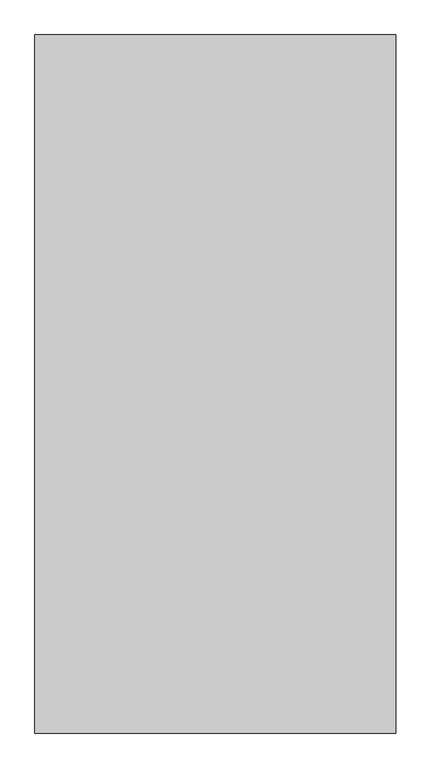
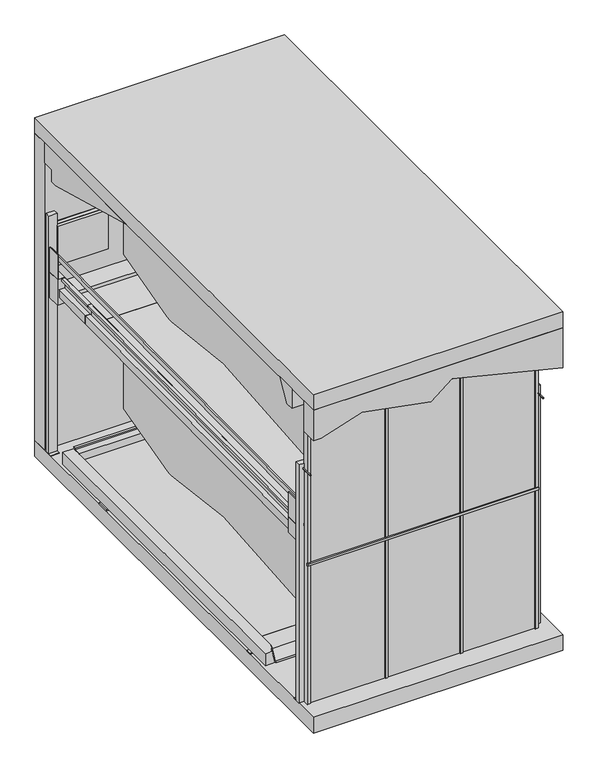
"""IFC4 building model written with IfcOpenShell, lengths in millimetres: proxy geometry, TrendVario 6200+ : TrendVario 6200+."""

from ifc_helpers import new_model, si_unit, point, frame, frame_2d, origin, origin_with_axes, place, context, project, spatial, polyline, circle_curve, trimmed, segment, composite_curve, outline, extrude, faceted_brep, source, transform, mapped, element, save
from ifc_brep_helpers import plane_surface, cylinder_surface, spline_surface, advanced_brep


def generic_models_86916ad0(model_context):
    return source(origin(), model_context, "Body", "SolidModel", [
        extrude(outline(composite_curve([segment(trimmed(circle_curve(frame_2d((2850.0, 5300.0602659)), 6.0), [point((2850.0, 5294.0602659))], [point((2850.0, 5306.0602659))], False, "CARTESIAN"), True, "CONTINUOUS"), segment(trimmed(circle_curve(frame_2d((2850.0, 5300.0602659)), 6.0), [point((2850.0, 5306.0602659))], [point((2850.0, 5294.0602659))], False, "CARTESIAN"), True, "CONTINUOUS")], self_intersect=False)), frame((0.0, 0.0, -150.0), z_axis=(0.0, 0.0, 1.0), x_axis=(1.0, 0.0, 0.0)), (0.0, 0.0, 1.0), 150.0),
        extrude(outline(composite_curve([segment(trimmed(circle_curve(frame_2d((50.0, 5300.0602653)), 6.0), [point((44.0, 5300.0602653))], [point((56.0, 5300.0602653))], False, "CARTESIAN"), True, "CONTINUOUS"), segment(trimmed(circle_curve(frame_2d((50.0, 5300.0602653)), 6.0), [point((56.0, 5300.0602653))], [point((44.0, 5300.0602653))], False, "CARTESIAN"), True, "CONTINUOUS")], self_intersect=False)), frame((0.0, 0.0, -150.0), z_axis=(0.0, 0.0, 1.0), x_axis=(1.0, 0.0, 0.0)), (0.0, 0.0, 1.0), 150.0),
        extrude(outline(composite_curve([segment(trimmed(circle_curve(frame_2d((2850.0, 170.0)), 6.0), [point((2850.0, 164.0))], [point((2850.0, 176.0))], False, "CARTESIAN"), True, "CONTINUOUS"), segment(trimmed(circle_curve(frame_2d((2850.0, 170.0)), 6.0), [point((2850.0, 176.0))], [point((2850.0, 164.0))], False, "CARTESIAN"), True, "CONTINUOUS")], self_intersect=False)), frame((0.0, 0.0, -150.0), z_axis=(0.0, 0.0, 1.0), x_axis=(1.0, 0.0, 0.0)), (0.0, 0.0, 1.0), 150.0),
        extrude(outline(composite_curve([segment(trimmed(circle_curve(frame_2d((50.0, 170.0)), 6.0), [point((44.0, 170.0))], [point((56.0, 170.0))], False, "CARTESIAN"), True, "CONTINUOUS"), segment(trimmed(circle_curve(frame_2d((50.0, 170.0)), 6.0), [point((56.0, 170.0))], [point((44.0, 170.0))], False, "CARTESIAN"), True, "CONTINUOUS")], self_intersect=False)), frame((0.0, 0.0, -150.0), z_axis=(0.0, 0.0, 1.0), x_axis=(1.0, 0.0, 0.0)), (0.0, 0.0, 1.0), 150.0),
        extrude(outline(composite_curve([segment(trimmed(circle_curve(frame_2d((2965.0, 2850.0)), 6.0), [point((2965.0, 2844.0))], [point((2965.0, 2856.0))], False, "CARTESIAN"), True, "CONTINUOUS"), segment(trimmed(circle_curve(frame_2d((2965.0, 2850.0)), 6.0), [point((2965.0, 2856.0))], [point((2965.0, 2844.0))], False, "CARTESIAN"), True, "CONTINUOUS")], self_intersect=False)), frame((0.0, -50.0, 0.0), z_axis=(0.0, 1.0, 0.0), x_axis=(0.0, 0.0, 1.0)), (0.0, 0.0, 1.0), 150.0),
        extrude(outline(composite_curve([segment(trimmed(circle_curve(frame_2d((2965.0, 50.0)), 6.0), [point((2965.0, 44.0))], [point((2965.0, 56.0))], False, "CARTESIAN"), True, "CONTINUOUS"), segment(trimmed(circle_curve(frame_2d((2965.0, 50.0)), 6.0), [point((2965.0, 56.0))], [point((2965.0, 44.0))], False, "CARTESIAN"), True, "CONTINUOUS")], self_intersect=False)), frame((0.0, -50.0, 0.0), z_axis=(0.0, 1.0, 0.0), x_axis=(0.0, 0.0, 1.0)), (0.0, 0.0, 1.0), 150.0),
        extrude(outline(composite_curve([segment(trimmed(circle_curve(frame_2d((2965.0, 50.0)), 6.0), [point((2965.0, 44.0))], [point((2965.0, 56.0))], False, "CARTESIAN"), True, "CONTINUOUS"), segment(trimmed(circle_curve(frame_2d((2965.0, 50.0)), 6.0), [point((2965.0, 56.0))], [point((2965.0, 44.0))], False, "CARTESIAN"), True, "CONTINUOUS")], self_intersect=False)), frame((0.0, 5369.5816653, 0.0), z_axis=(0.0, 1.0, 0.0), x_axis=(0.0, 0.0, 1.0)), (0.0, 0.0, 1.0), 150.0),
        extrude(outline(composite_curve([segment(trimmed(circle_curve(frame_2d((2965.0, 2850.0)), 6.0), [point((2965.0, 2844.0))], [point((2965.0, 2856.0))], False, "CARTESIAN"), True, "CONTINUOUS"), segment(trimmed(circle_curve(frame_2d((2965.0, 2850.0)), 6.0), [point((2965.0, 2856.0))], [point((2965.0, 2844.0))], False, "CARTESIAN"), True, "CONTINUOUS")], self_intersect=False)), frame((0.0, 5369.6045102, 0.0), z_axis=(0.0, 1.0, 0.0), x_axis=(0.0, 0.0, 1.0)), (0.0, 0.0, 1.0), 150.0),
        extrude(outline(polyline([(0.0, -60.0), (0.0, 0.0), (4430.0, 0.0), (4430.0, -60.0), (0.0, -60.0)])), frame((2811.0, 171.9869847, 2038.264563), z_axis=(0.0, -0.008726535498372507, 0.9999619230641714), x_axis=(0.0, 0.9999619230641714, 0.008726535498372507)), (0.0, 0.0, 1.0), 100.0),
        extrude(outline(polyline([(0.0, -19.0), (0.0, 0.0), (4440.0, 0.0), (4440.0, -19.0), (0.0, -19.0)])), frame((2863.0, 167.9116926, 2505.246781), z_axis=(0.0, -0.008726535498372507, 0.9999619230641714), x_axis=(0.0, 0.9999619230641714, 0.008726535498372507)), (0.0, 0.0, 1.0), 56.0),
        faceted_brep([(2800.0, 4599.8286538, 2304.9144337), (2843.0, 4599.8286538, 2304.9144337), (2843.0, 4600.0904499, 2274.915576), (2840.0, 4600.0904499, 2274.915576), (2840.0, 4599.8548334, 2301.9145479), (2803.0, 4599.8548334, 2301.9145479), (2803.0, 4602.6211451, 1984.9266183), (2748.0, 4602.6211451, 1984.9266183), (2748.0, 4602.210998, 2031.9248287), (2711.0, 4602.210998, 2031.9248287), (2711.0, 4602.1848184, 2034.9247145), (2751.0, 4602.1848184, 2034.9247145), (2751.0, 4602.5949655, 1987.9265041), (2800.0, 4602.5949655, 1987.9265041), (2803.0, 102.7924914, 1945.6572086), (2803.0, 100.0261796, 2262.6451382), (2840.0, 100.0261796, 2262.6451382), (2840.0, 100.2617961, 2235.6461663), (2843.0, 100.2617961, 2235.6461663), (2843.0, 100.0, 2265.645024), (2800.0, 100.0, 2265.645024), (2800.0, 102.7924914, 1945.6572086), (2800.0, 202.7886837, 1946.5298621), (2748.0, 202.7886837, 1946.5298621), (2748.0, 202.3785365, 1993.5280725), (2711.0, 202.3785365, 1993.5280725), (2711.0, 202.3523569, 1996.5279583), (2751.0, 202.3523569, 1996.5279583), (2751.0, 202.7625041, 1949.5297479), (2800.0, 202.7625041, 1949.5297479)], [[[0, 1, 2, 3, 4, 5, 6, 7, 8, 9, 10, 11, 12, 13]], [[14, 15, 16, 17, 18, 19, 20, 21]], [[1, 0, 20, 19]], [[2, 1, 19, 18]], [[3, 2, 18, 17]], [[4, 3, 17, 16]], [[5, 4, 16, 15]], [[6, 5, 15, 14]], [[7, 6, 14, 21, 22, 23]], [[8, 7, 23, 24]], [[9, 8, 24, 25]], [[10, 9, 25, 26]], [[11, 10, 26, 27]], [[12, 11, 27, 28]], [[13, 12, 28, 29]], [[0, 13, 29, 22, 21, 20]], [[22, 29, 28, 27, 26, 25, 24, 23]]]),
        extrude(outline(polyline([(2133.867435, 0.0), (2133.867435, -1200.0), (-1962.132565, -1200.0), (-1962.132565, 0.0), (2133.867435, 0.0)])), frame((1600.0, 2468.3986345, 2016.3034445), z_axis=(0.0, -0.008726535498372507, 0.9999619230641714), x_axis=(0.0, 0.9999619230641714, 0.008726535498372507)), (0.0, 0.0, 1.0), 8.0),
        extrude(outline(polyline([(0.0, -1500.0), (0.0, 0.0), (769.9999999, 0.0), (769.9999999, -1500.0), (0.0, -1500.0)])), frame((100.0, 4602.1898877, 2034.9247587), z_axis=(0.0, -0.008726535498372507, 0.9999619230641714), x_axis=(0.0, 0.9999619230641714, 0.008726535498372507)), (0.0, 0.0, 1.0), 8.0),
        extrude(outline(polyline([(5133.7158509, 2091.5652956), (5371.7067886, 2093.642211), (5372.0907561, 2049.6438864), (5369.0908704, 2049.6177068), (5368.7330824, 2090.6161457), (5136.7419163, 2088.5915894), (5137.0997042, 2047.5931506), (5134.0998185, 2047.566971), (5133.7158509, 2091.5652956)])), frame((100.0, 0.0, 0.0), z_axis=(1.0, 0.0, 0.0), x_axis=(0.0, 1.0, 0.0)), (0.0, 0.0, 1.0), 1500.0),
        extrude(outline(polyline([(319.9999999, 0.0), (319.9999999, -43.0), (289.9999999, -43.0), (289.9999999, -40.0), (317.0, -40.0), (317.0, -3.0), (0.0, -3.0), (0.0, 52.0), (46.9999999, 52.0), (46.9999999, 89.0), (49.9999999, 89.0), (49.9999999, 49.0), (2.9999999, 49.0), (2.9999999, 0.0), (319.9999999, 0.0)])), frame((100.0, 4602.6262144, 1984.9266626), z_axis=(0.0, 0.9999619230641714, 0.008726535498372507), x_axis=(0.0, -0.008726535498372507, 0.9999619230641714)), (0.0, 0.0, 1.0), 770.0),
        extrude(outline(polyline([(200.0, 8.0), (200.0, 0.0), (100.0, 0.0), (100.0, 3025.0), (160.0, 3025.0), (160.0, 8.0), (200.0, 8.0)])), frame((0.0, 0.0, 0.0), z_axis=(1.0, 0.0, 0.0), x_axis=(0.0, 1.0, 0.0)), (0.0, 0.0, 1.0), 100.0),
        faceted_brep([(0.0, 5249.9885779, 3650.0), (3000.0, 5249.9885779, 3650.0), (3000.0, 5249.9885779, 3500.0), (0.0, 5249.9885779, 3500.0), (0.0, 5399.9657348, 3650.0), (3000.0, 5399.9657348, 3650.0), (3000.0, 5167.6820669, 3500.0), (3000.0, 3699.9673137, 3900.0057953), (0.0, 3699.9885779, 3900.0), (0.0, 5167.6820669, 3500.0), (3000.0, 5399.9657348, 3900.0), (0.0, 5399.9657348, 3900.0)], [[[0, 1, 2, 3]], [[1, 0, 4, 5]], [[6, 7, 8, 9]], [[10, 7, 6, 2, 1, 5]], [[8, 11, 4, 0, 3, 9]], [[11, 10, 5, 4]], [[7, 10, 11, 8]], [[2, 6, 9, 3]]]),
        extrude(outline(polyline([(3511.8273555, 0.0), (3511.8273555, 90.0080034), (3672.5161926, 584.5573919), (3511.8273555, 1411.229794), (3719.8801857, 1665.5456754), (3387.1633541, 3000.0), (3900.0, 3000.0), (3900.0, 0.0), (3511.8273555, 0.0)])), frame((0.0, -200.0, 0.0), z_axis=(0.0, 1.0, 0.0), x_axis=(0.0, 0.0, 1.0)), (0.0, 0.0, 1.0), 200.0),
        extrude(outline(polyline([(100.0, 45.0), (100.0, 55.0), (2800.0, 55.0), (2800.0, 45.0), (100.0, 45.0)])), origin_with_axes(), (0.0, 0.0, 1.0), 3526.0),
        extrude(outline(polyline([(1932.0, 44.0), (1932.0, 35.0), (1902.0, 35.0), (1902.0, 44.0), (1932.0, 44.0)])), origin_with_axes(), (0.0, 0.0, 1.0), 3526.0),
        extrude(outline(polyline([(1031.0, 44.0), (1031.0, 35.0), (1001.0, 35.0), (1001.0, 44.0), (1031.0, 44.0)])), origin_with_axes(), (0.0, 0.0, 1.0), 3526.0),
        extrude(outline(polyline([(0.0, -19.0), (0.0, 0.0), (5147.1058324, 0.0), (5147.1058324, -19.0), (0.0, -19.0)])), frame((37.0, 5302.7546227, 2550.0578764), z_axis=(0.0, -0.008726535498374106, 0.9999619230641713), x_axis=(0.0, -0.9999619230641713, -0.008726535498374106)), (0.0, 0.0, 1.0), 56.0),
        extrude(outline(polyline([(18.0, 5142.5968952), (7.0, 5142.5968952), (7.0, 5312.5968952), (18.0, 5312.5968952), (18.0, 5142.5968952)])), frame((0.0, 0.0, 2319.0), z_axis=(0.0, 0.0, 1.0), x_axis=(1.0, 0.0, 0.0)), (0.0, 0.0, 1.0), 310.0),
        extrude(outline(polyline([(2882.0, 5142.0602659), (2882.0, 5312.0602659), (2893.0, 5312.0602659), (2893.0, 5142.0602659), (2882.0, 5142.0602659)])), frame((0.0, 0.0, 2319.0), z_axis=(0.0, 0.0, 1.0), x_axis=(1.0, 0.0, 0.0)), (0.0, 0.0, 1.0), 310.0),
        advanced_brep(
        [(2878.3930268, 838.0907234, 21.8284597), (2878.3930268, 838.0907234, 173.2797049), (2800.0, 838.0907234, 173.2797049), (2760.0, 838.0907234, 21.8284597), (2878.3930268, 5057.0907234, 21.8284597), (2750.0, 5057.0907234, 21.8284597), (2750.0, 5057.0907234, 173.2797049), (2878.3930268, 5057.0907234, 173.2797049), (2750.0, 938.0907234, 173.2797049), (2750.0, 848.0907234, 21.8284597)],
        [
            (0, 1),
            (1, 2),
            (2, 3),
            (3, 0),
            (4, 5),
            (5, 6),
            (6, 7),
            (7, 4),
            (0, 4),
            (7, 1),
            (6, 8),
            (8, 2),
            (5, 9),
            (9, 8),
            (3, 9),
        ],
        [
            plane_surface(frame((2750.0, 838.0907234, 0.0), z_axis=(0.0, -1.0, 0.0), x_axis=(0.0, 0.0, 1.0))),
            plane_surface(frame((2750.0, 5057.0907234, 0.0), z_axis=(0.0, 1.0, 0.0), x_axis=(0.0, 0.0, 1.0))),
            plane_surface(frame((2878.3930268, 838.0907234, 21.8284597), z_axis=(1.0, 0.0, 0.0), x_axis=(0.0, 1.0, 0.0))),
            plane_surface(frame((2878.3930268, 838.0907234, 173.2797049), z_axis=(0.0, 0.0, 1.0), x_axis=(0.0, 1.0, 0.0))),
            plane_surface(frame((2750.0, 838.0907234, 173.2797049), z_axis=(-1.0, 0.0, 0.0), x_axis=(0.0, 1.0, 0.0))),
            plane_surface(frame((2750.0, 838.0907234, 21.8284597), z_axis=(0.0, 0.0, -1.0), x_axis=(0.0, 1.0, 0.0))),
            spline_surface(1, 1, [[(2750.0, 938.0907234, 173.2797049), (2800.0, 838.0907234, 173.2797049)], [(2750.0, 848.0907234, 21.8284597), (2760.0, 838.0907234, 21.8284597)]], [2, 2], [2, 2], [0.0, 1.0], [0.0, 1.0]),
        ],
        [
            (0, [[1, 2, 3, 4]]),
            (1, [[5, 6, 7, 8]]),
            (2, [[-1, 9, -8, 10]]),
            (3, [[-7, 11, 12, -2, -10]]),
            (4, [[-6, 13, 14, -11]]),
            (5, [[-5, -9, -4, 15, -13]]),
            (6, [[-3, -12, -14, -15]]),
        ],
    ),
        advanced_brep(
        [(22.4384321, 838.0907234, 173.2797049), (22.4384321, 838.0907234, 20.8412855), (140.0, 838.0907234, 20.8412855), (100.0, 838.0907234, 173.2797049), (150.0, 5057.0907234, 20.8412855), (22.4384321, 5057.0907234, 20.8412855), (22.4384321, 5057.0907234, 173.2797049), (150.0, 5057.0907234, 173.2797049), (150.0, 938.0907234, 173.2797049), (150.0, 848.0907234, 20.8412855)],
        [
            (0, 1),
            (1, 2),
            (2, 3),
            (3, 0),
            (4, 5),
            (5, 6),
            (6, 7),
            (7, 4),
            (7, 8),
            (8, 9),
            (9, 4),
            (6, 0),
            (3, 8),
            (5, 1),
            (9, 2),
        ],
        [
            plane_surface(frame((150.0, 838.0907234, 20.8412855), z_axis=(0.0, -1.0, 0.0), x_axis=(0.0, 0.0, 1.0))),
            plane_surface(frame((150.0, 5057.0907234, 20.8412855), z_axis=(0.0, 1.0, 0.0), x_axis=(0.0, 0.0, -1.0))),
            plane_surface(frame((150.0, 838.0907234, 20.8412855), z_axis=(1.0, 0.0, 0.0), x_axis=(0.0, 1.0, 0.0))),
            plane_surface(frame((150.0, 838.0907234, 173.2797049), z_axis=(0.0, 0.0, 1.0), x_axis=(0.0, 1.0, 0.0))),
            plane_surface(frame((22.4384321, 838.0907234, 173.2797049), z_axis=(-1.0, 0.0, 0.0), x_axis=(0.0, 1.0, 0.0))),
            plane_surface(frame((22.4384321, 838.0907234, 20.8412855), z_axis=(0.0, 0.0, -1.0), x_axis=(0.0, 1.0, 0.0))),
            spline_surface(1, 1, [[(150.0, 848.0907234, 20.8412855), (140.0, 838.0907234, 20.8412855)], [(150.0, 938.0907234, 173.2797049), (100.0, 838.0907234, 173.2797049)]], [2, 2], [2, 2], [0.0, 1.0], [0.0, 1.0]),
        ],
        [
            (0, [[1, 2, 3, 4]]),
            (1, [[5, 6, 7, 8]]),
            (2, [[-8, 9, 10, 11]]),
            (3, [[-7, 12, -4, 13, -9]]),
            (4, [[-1, -12, -6, 14]]),
            (5, [[-5, -11, 15, -2, -14]]),
            (6, [[-3, -15, -10, -13]]),
        ],
    ),
        extrude(outline(polyline([(5369.6045102, 0.0), (5270.0602659, 0.0), (5270.0602659, 8.0), (5310.0602659, 8.0), (5310.0602659, 3025.0), (5369.6045102, 3025.0), (5369.6045102, 0.0)])), frame((2800.0, 0.0, 0.0), z_axis=(1.0, 0.0, 0.0), x_axis=(0.0, 1.0, 0.0)), (0.0, 0.0, 1.0), 100.0),
        extrude(outline(polyline([(5269.5968952, 0.0), (5269.5968952, 8.0), (5309.5968952, 8.0), (5309.5968952, 3025.0), (5369.5968952, 3025.0), (5369.5968952, 0.0), (5269.5968952, 0.0)])), frame((0.0, 0.0, 0.0), z_axis=(1.0, 0.0, 0.0), x_axis=(0.0, 1.0, 0.0)), (0.0, 0.0, 1.0), 100.0),
        advanced_brep(
        [(850.0, 5220.0526533, 335.5997321), (850.0, 4313.3699728, 92.6548401), (850.0, 4224.7221662, 85.0351129), (850.0, 3145.3807126, 219.0), (850.0, 1424.180165, 85.3914386), (850.0, 1340.4923675, 90.5100035), (850.0, 220.4923675, 349.0823776), (850.0, 220.4923675, 1334.0), (850.0, 520.4923675, 1884.0), (850.0, 3620.0831131, 1884.0000002), (850.0, 5220.0526556, 1434.0085664), (2750.0, 220.4923675, 349.0823776), (2750.0, 1340.4923675, 90.5100035), (2750.0, 1424.180165, 85.3914386), (2750.0, 3145.3807126, 219.0), (2750.0, 4224.7221662, 85.0351129), (2750.0, 4313.3699728, 92.6548401), (2750.0, 5220.0526533, 335.5997321), (2750.0, 5220.0526556, 1434.0085664), (2750.0, 3620.0831131, 1884.0000002), (2750.0, 520.4923675, 1884.0), (2750.0, 220.4923675, 1334.0)],
        [
            (0, 1),
            (1, 2, circle_curve(frame((850.0, 4247.6299354, 338.0), z_axis=(-1.0, 0.0, 0.0), x_axis=(0.0, 1.0, 0.0)), 254.0)),
            (2, 3),
            (3, 4),
            (4, 5, circle_curve(frame((850.0, 1397.6299354, 338.0), z_axis=(-1.0, 0.0, 0.0), x_axis=(0.0, 1.0, 0.0)), 254.0)),
            (5, 6),
            (6, 7),
            (7, 8),
            (8, 9),
            (9, 10),
            (10, 0),
            (11, 12),
            (12, 13, circle_curve(frame((2750.0, 1397.6299354, 338.0), z_axis=(1.0, 0.0, 0.0), x_axis=(0.0, 1.0, 0.0)), 254.0)),
            (13, 14),
            (14, 15),
            (15, 16, circle_curve(frame((2750.0, 4247.6299354, 338.0), z_axis=(1.0, 0.0, 0.0), x_axis=(0.0, 1.0, 0.0)), 254.0)),
            (16, 17),
            (17, 18),
            (18, 19),
            (19, 20),
            (20, 21),
            (21, 11),
            (17, 0),
            (10, 18),
            (16, 1),
            (15, 2),
            (14, 3),
            (13, 4),
            (12, 5),
            (11, 6),
            (21, 7),
            (9, 19),
            (8, 20),
        ],
        [
            plane_surface(frame((850.0, 220.4923675, 0.0), z_axis=(-1.0, 0.0, 0.0), x_axis=(0.0, 0.0, 1.0))),
            plane_surface(frame((2750.0, 220.4923675, 0.0), z_axis=(1.0, 0.0, 0.0), x_axis=(0.0, 0.0, 1.0))),
            plane_surface(frame((850.0, 5220.0526533, 1105.8846371), z_axis=(0.0, 1.0, 0.0), x_axis=(1.0, 0.0, 0.0))),
            plane_surface(frame((850.0, 5220.0526533, 335.5997321), z_axis=(0.0, 0.25881904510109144, -0.9659258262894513), x_axis=(1.0, 0.0, 0.0))),
            cylinder_surface(frame((850.0, 4247.6299354, 338.0), z_axis=(-1.0, 0.0, 0.0), x_axis=(0.0, 1.0, 0.0)), 254.0),
            plane_surface(frame((850.0, 4224.7221662, 85.0351129), z_axis=(0.0, -0.12317213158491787, -0.992385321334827), x_axis=(1.0, 0.0, 0.0))),
            plane_surface(frame((850.0, 3145.3807126, 219.0), z_axis=(0.0, 0.07739239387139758, -0.9970007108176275), x_axis=(1.0, 0.0, 0.0))),
            cylinder_surface(frame((850.0, 1397.6299354, 338.0), z_axis=(-1.0, 0.0, 0.0), x_axis=(0.0, 1.0, 0.0)), 254.0),
            plane_surface(frame((850.0, 1340.4923675, 90.5100035), z_axis=(0.0, -0.22495105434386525, -0.9743700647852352), x_axis=(1.0, 0.0, 0.0))),
            plane_surface(frame((850.0, 220.4923675, 349.0823776), z_axis=(0.0, -1.0, 0.0), x_axis=(1.0, 0.0, 0.0))),
            plane_surface(frame((850.0, 3620.0831131, 1884.0000002), z_axis=(0.0, 0.27074557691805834, 0.9626509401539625), x_axis=(1.0, 0.0, 0.0))),
            plane_surface(frame((850.0, 620.4885622, 1884.0000002), z_axis=(0.0, 0.0, 1.0), x_axis=(1.0, 0.0, 0.0))),
            plane_surface(frame((850.0, 220.4923675, 1334.0), z_axis=(0.0, -0.8778955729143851, 0.478852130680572), x_axis=(1.0, 0.0, 0.0))),
        ],
        [
            (0, [[1, 2, 3, 4, 5, 6, 7, 8, 9, 10, 11]]),
            (1, [[12, 13, 14, 15, 16, 17, 18, 19, 20, 21, 22]]),
            (2, [[23, -11, 24, -18]]),
            (3, [[-1, -23, -17, 25]]),
            (4, [[-2, -25, -16, 26]]),
            (5, [[-3, -26, -15, 27]]),
            (6, [[-4, -27, -14, 28]]),
            (7, [[-5, -28, -13, 29]]),
            (8, [[-6, -29, -12, 30]]),
            (9, [[-7, -30, -22, 31]]),
            (10, [[-10, 32, -19, -24]]),
            (11, [[-20, -32, -9, 33]]),
            (12, [[-8, -31, -21, -33]]),
        ],
    ),
        advanced_brep(
        [(850.0080034, 219.0783305, 2530.0), (850.0080034, 212.7549246, 3254.5905482), (850.0080034, 507.9448535, 3807.0791047), (850.0080034, 614.5742843, 3808.0096456), (850.0080034, 616.0660458, 3810.8016825), (850.0080034, 3620.0751529, 3837.0172728), (850.0080034, 5220.0526533, 3400.9650555), (850.0080034, 5220.0602659, 2299.8475577), (850.0080034, 4315.7898833, 2049.0711861), (850.0080034, 4227.211946, 2040.6781608), (850.0080034, 3146.7425411, 2165.2190354), (850.0080034, 1426.7734714, 2016.5954437), (850.0080034, 1343.0441931, 2020.9835093), (850.0080034, 226.8699728, 2268.4333765), (850.0080034, 224.5873155, 2530.0), (2750.0080034, 507.9448535, 3807.0791047), (2750.0080034, 212.7549245, 3254.5905482), (2750.0080034, 219.0783305, 2530.0), (2750.0080034, 224.5873155, 2530.0), (2750.0080034, 226.8699728, 2268.4333765), (2750.0080034, 1343.0441931, 2020.9835093), (2750.0080034, 1426.7734714, 2016.5954437), (2750.0080034, 3146.7425411, 2165.2190354), (2750.0080034, 4227.211946, 2040.6781608), (2750.0080034, 4315.7898833, 2049.0711861), (2750.0080034, 5220.0602659, 2299.8475577), (2750.0080034, 5220.0526533, 3400.9650555), (2750.0080034, 3620.0751529, 3837.0172728), (2750.0080034, 616.0660458, 3810.8016825), (2750.0080034, 614.5742843, 3808.0096456)],
        [
            (0, 1),
            (1, 2),
            (2, 3),
            (3, 4),
            (4, 5),
            (5, 6),
            (6, 7),
            (7, 8),
            (8, 9, circle_curve(frame((850.0080034, 4247.9113358, 2293.8333213), z_axis=(-1.0, 6.846874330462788e-12, 0.0), x_axis=(6.846340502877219e-12, 0.9999619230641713, 0.008726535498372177)), 254.0)),
            (9, 10),
            (10, 11),
            (11, 12, circle_curve(frame((850.0080034, 1398.0198551, 2268.9626951), z_axis=(-1.0, 6.846874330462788e-12, 0.0), x_axis=(6.846340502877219e-12, 0.9999619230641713, 0.008726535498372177)), 254.0)),
            (12, 13),
            (13, 14),
            (14, 0),
            (15, 16),
            (16, 17),
            (17, 18),
            (18, 19),
            (19, 20),
            (20, 21, circle_curve(frame((2750.0080034, 1398.0198551, 2268.9626951), z_axis=(1.0, -6.846874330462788e-12, 0.0), x_axis=(6.846340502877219e-12, 0.9999619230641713, 0.008726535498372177)), 254.0)),
            (21, 22),
            (22, 23),
            (23, 24, circle_curve(frame((2750.0080034, 4247.9113358, 2293.8333213), z_axis=(1.0, -6.846874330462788e-12, 0.0), x_axis=(6.846340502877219e-12, 0.9999619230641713, 0.008726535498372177)), 254.0)),
            (24, 25),
            (25, 26),
            (26, 27),
            (27, 28),
            (28, 29),
            (29, 15),
            (2, 15),
            (29, 3),
            (1, 16),
            (17, 0),
            (14, 18),
            (4, 28),
            (27, 5),
            (26, 6),
            (25, 7),
            (24, 8),
            (23, 9),
            (22, 10),
            (21, 11),
            (20, 12),
            (19, 13),
        ],
        [
            plane_surface(frame((850.0080034, 428.8717402, 3900.0), z_axis=(-1.0, 6.846035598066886e-12, 0.0), x_axis=(0.0, 0.0, 1.0))),
            plane_surface(frame((2750.0080034, 428.8717402, 3900.0), z_axis=(1.0, -6.846035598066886e-12, 0.0), x_axis=(0.0, 0.0, 1.0))),
            plane_surface(frame((850.0080034, 507.9448535, 3807.0791047), z_axis=(0.0, -0.008726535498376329, 0.9999619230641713), x_axis=(1.0, -6.846035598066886e-12, 0.0))),
            plane_surface(frame((850.0080034, 212.7549246, 3254.5905482), z_axis=(-6.038215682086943e-12, -0.8820017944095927, 0.4712460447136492), x_axis=(1.0, -6.846035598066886e-12, 0.0))),
            plane_surface(frame((850.0080034, 4789.9238543, 2530.0), z_axis=(0.0, 0.0, -1.0), x_axis=(1.0, -6.845999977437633e-12, 0.0))),
            plane_surface(frame((850.0080034, 219.0783305, 2530.0), z_axis=(-6.845774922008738e-12, -0.9999619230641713, -0.008726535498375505), x_axis=(1.0, -6.846035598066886e-12, 0.0))),
            plane_surface(frame((850.0080034, 616.0660458, 3810.8016825), z_axis=(0.0, -0.008726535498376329, 0.9999619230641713), x_axis=(1.0, -6.845999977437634e-12, 0.0))),
            plane_surface(frame((850.0080034, 3620.0751529, 3837.0172728), z_axis=(1.8001286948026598e-12, 0.2629460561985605, 0.9648105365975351), x_axis=(1.0, -6.845999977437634e-12, 0.0))),
            plane_surface(frame((850.0080034, 320.8761169, 3258.313126), z_axis=(-6.0382156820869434e-12, -0.8820017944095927, 0.4712460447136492), x_axis=(1.0, -6.846035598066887e-12, 0.0))),
            plane_surface(frame((850.0080034, 5220.0526533, 3400.9650555), z_axis=(6.845999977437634e-12, 1.0, 0.0), x_axis=(1.0, -6.845999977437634e-12, 0.0))),
            plane_surface(frame((2750.0080034, 4315.7898833, 2049.0711861), z_axis=(1.7721223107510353e-12, 0.26723837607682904, -0.963630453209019), x_axis=(-1.0, 6.8459999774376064e-12, 0.0))),
            cylinder_surface(frame((2750.0080034, 4247.9113358, 2293.8333213), z_axis=(1.0, -6.846874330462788e-12, 0.0), x_axis=(6.846340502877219e-12, 0.9999619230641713, 0.008726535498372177)), 254.0),
            plane_surface(frame((2750.0080034, 3146.7425411, 2165.2190354), z_axis=(0.0, -0.11450735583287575, -0.9934224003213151), x_axis=(-1.0, 6.845999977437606e-12, 0.0))),
            plane_surface(frame((2750.0080034, 1426.7734714, 2016.5954437), z_axis=(0.0, 0.08608980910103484, -0.9962873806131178), x_axis=(-1.0, 6.845999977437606e-12, 0.0))),
            cylinder_surface(frame((2750.0080034, 1398.0198551, 2268.9626951), z_axis=(1.0, -6.846874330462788e-12, 0.0), x_axis=(6.846340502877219e-12, 0.9999619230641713, 0.008726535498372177)), 254.0),
            plane_surface(frame((2750.0080034, 226.8699728, 2268.4333765), z_axis=(-1.5398915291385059e-12, -0.21643961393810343, -0.9762960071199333), x_axis=(-1.0, 6.845999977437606e-12, 0.0))),
            plane_surface(frame((2750.0080034, 220.9776342, 2943.6285041), z_axis=(-6.8462590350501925e-12, -0.9999619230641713, -0.00872653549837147), x_axis=(-1.0, 6.845999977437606e-12, 0.0))),
        ],
        [
            (0, [[1, 2, 3, 4, 5, 6, 7, 8, 9, 10, 11, 12, 13, 14, 15]]),
            (1, [[16, 17, 18, 19, 20, 21, 22, 23, 24, 25, 26, 27, 28, 29, 30]]),
            (2, [[31, -30, 32, -3]]),
            (3, [[-2, 33, -16, -31]]),
            (4, [[34, -15, 35, -18]]),
            (5, [[-1, -34, -17, -33]]),
            (6, [[-5, 36, -28, 37]]),
            (7, [[-6, -37, -27, 38]]),
            (8, [[-36, -4, -32, -29]]),
            (9, [[-7, -38, -26, 39]]),
            (10, [[-25, 40, -8, -39]]),
            (11, [[-24, 41, -9, -40]]),
            (12, [[-23, 42, -10, -41]]),
            (13, [[-22, 43, -11, -42]]),
            (14, [[-21, 44, -12, -43]]),
            (15, [[-20, 45, -13, -44]]),
            (16, [[-45, -19, -35, -14]]),
        ],
    ),
        extrude(outline(polyline([(1932.0, 35.0), (1902.0, 35.0), (1902.0, 44.0), (1932.0, 44.0), (1932.0, 35.0)])), origin_with_axes(), (0.0, 0.0, 1.0), 3526.0),
        extrude(outline(polyline([(1031.0, 35.0), (1001.0, 35.0), (1001.0, 44.0), (1031.0, 44.0), (1031.0, 35.0)])), origin_with_axes(), (0.0, 0.0, 1.0), 3526.0),
        extrude(outline(polyline([(700.0, 5369.6045096), (700.0, 5284.6045096), (100.0, 5284.6045096), (100.0, 5369.6045096), (700.0, 5369.6045096)])), frame((0.0, 0.0, 2379.0), z_axis=(0.0, 0.0, 1.0), x_axis=(1.0, 0.0, 0.0)), (0.0, 0.0, 1.0), 500.0),
        extrude(outline(polyline([(250.0, 3650.0), (250.0, 3900.0), (500.0, 3900.0), (349.6363636, 3650.0), (250.0, 3650.0)])), frame((0.0, 0.0, 0.0), z_axis=(1.0, 0.0, 0.0), x_axis=(0.0, 1.0, 0.0)), (0.0, 0.0, 1.0), 3000.0),
        extrude(outline(polyline([(60.0, 32.0), (60.0, 100.0), (2840.0, 100.0), (2840.0, 32.0), (60.0, 32.0)])), frame((0.0, 0.0, 3526.0), z_axis=(0.0, 0.0, 1.0), x_axis=(1.0, 0.0, 0.0)), (0.0, 0.0, 1.0), 74.0),
        extrude(outline(polyline([(60.0, 20.0), (60.0, 34.0), (2840.0, 34.0), (2840.0, 20.0), (60.0, 20.0)])), frame((0.0, 0.0, 1763.0), z_axis=(0.0, 0.0, 1.0), x_axis=(1.0, 0.0, 0.0)), (0.0, 0.0, 1.0), 30.0),
        extrude(outline(polyline([(2840.0, 32.0), (2800.0, 32.0), (2800.0, 100.0), (2840.0, 100.0), (2840.0, 32.0)])), origin_with_axes(), (0.0, 0.0, 1.0), 3526.0),
        extrude(outline(polyline([(100.0, 32.0), (60.0, 32.0), (60.0, 100.0), (100.0, 100.0), (100.0, 32.0)])), origin_with_axes(), (0.0, 0.0, 1.0), 3526.0),
        extrude(outline(polyline([(0.0, -19.0), (0.0, 0.0), (702.4860602, 0.0), (702.4860602, -19.0), (0.0, -19.0)])), frame((2882.0, 5310.2019427, 2550.1228682), z_axis=(0.0, -0.00872653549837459, 0.9999619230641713), x_axis=(0.0, -0.9999619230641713, -0.00872653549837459)), (0.0, 0.0, 1.0), 56.0),
        extrude(outline(polyline([(0.0, -59.9999949), (0.0, 0.0), (622.0497333, 0.0), (622.0497333, -59.9999949), (0.0, -59.9999949)])), frame((2810.9999948, 4601.8183039, 2076.9231152), z_axis=(0.0, -0.00872653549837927, 0.9999619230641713), x_axis=(0.0, 0.9999619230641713, 0.00872653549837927)), (0.0, 0.0, 1.0), 100.0),
        extrude(outline(polyline([(0.0, -60.0), (0.0, 0.0), (4430.0, 0.0), (4430.0, -60.0), (0.0, -60.0)])), frame((29.0, 171.9869847, 2038.264563), z_axis=(0.0, -0.008726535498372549, 0.9999619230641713), x_axis=(0.0, 0.9999619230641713, 0.008726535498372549)), (0.0, 0.0, 1.0), 100.0),
        extrude(outline(polyline([(0.0, -60.0), (0.0, 0.0), (585.0, 0.0), (585.0, -60.0), (0.0, -60.0)])), frame((29.0, 4601.8233732, 2076.9231595), z_axis=(0.0, -0.008726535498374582, 0.9999619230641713), x_axis=(0.0, 0.9999619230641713, 0.008726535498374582)), (0.0, 0.0, 1.0), 100.0),
        extrude(outline(polyline([(5312.0602659, 1991.0934303), (5142.0602659, 1989.6098628), (5142.0602659, 2314.0), (5312.0602659, 2314.0), (5312.0602659, 1991.0934303)])), frame((2803.0, 0.0, 0.0), z_axis=(1.0, 0.0, 0.0), x_axis=(0.0, 1.0, 0.0)), (0.0, 0.0, 1.0), 90.0),
        extrude(outline(polyline([(5142.5968952, 1989.6145459), (5142.5968952, 2314.0), (5312.5968952, 2314.0), (5312.5968952, 1991.0981134), (5142.5968952, 1989.6145459)])), frame((7.0, 0.0, 0.0), z_axis=(1.0, 0.0, 0.0), x_axis=(0.0, 1.0, 0.0)), (0.0, 0.0, 1.0), 90.0),
        extrude(outline(polyline([(7.0, 160.0), (7.0, 330.0), (18.0, 330.0), (18.0, 160.0), (7.0, 160.0)])), frame((0.0, 0.0, 2229.0), z_axis=(0.0, 0.0, 1.0), x_axis=(1.0, 0.0, 0.0)), (0.0, 0.0, 1.0), 315.0),
        extrude(outline(polyline([(7.0, 160.0), (7.0, 330.0), (97.0, 330.0), (97.0, 160.0), (7.0, 160.0)])), frame((0.0, 0.0, 2029.0), z_axis=(0.0, 0.0, 1.0), x_axis=(1.0, 0.0, 0.0)), (0.0, 0.0, 1.0), 195.0),
        extrude(outline(polyline([(2893.0, 330.0), (2893.0, 160.0), (2882.0, 160.0), (2882.0, 330.0), (2893.0, 330.0)])), frame((0.0, 0.0, 2229.0), z_axis=(0.0, 0.0, 1.0), x_axis=(1.0, 0.0, 0.0)), (0.0, 0.0, 1.0), 315.0),
        extrude(outline(polyline([(2893.0, 330.0), (2893.0, 160.0), (2803.0, 160.0), (2803.0, 330.0), (2893.0, 330.0)])), frame((0.0, 0.0, 2029.0), z_axis=(0.0, 0.0, 1.0), x_axis=(1.0, 0.0, 0.0)), (0.0, 0.0, 1.0), 195.0),
        extrude(outline(polyline([(100.0, 0.0), (100.0, 3025.0), (160.0, 3025.0), (160.0, 8.0), (200.0, 8.0), (200.0, 0.0), (100.0, 0.0)])), frame((2800.0, 0.0, 0.0), z_axis=(1.0, 0.0, 0.0), x_axis=(0.0, 1.0, 0.0)), (0.0, 0.0, 1.0), 100.0),
        extrude(outline(polyline([(2803.0, 5372.5968952), (2803.0, 5319.5968952), (97.0, 5319.5968952), (97.0, 5372.5968952), (2803.0, 5372.5968952)])), frame((0.0, 0.0, 2854.0), z_axis=(0.0, 0.0, 1.0), x_axis=(1.0, 0.0, 0.0)), (0.0, 0.0, 1.0), 25.0),
        extrude(outline(polyline([(2803.0, 140.0), (2803.0, 87.0), (100.0, 87.0), (100.0, 140.0), (2803.0, 140.0)])), frame((0.0, 0.0, 2854.0), z_axis=(0.0, 0.0, 1.0), x_axis=(1.0, 0.0, 0.0)), (0.0, 0.0, 1.0), 25.0),
        extrude(outline(polyline([(0.0, 1119.5968952), (0.0, 1179.5968952), (3000.0, 1179.5968952), (3000.0, 1119.5968952), (0.0, 1119.5968952)])), origin_with_axes(), (0.0, 0.0, 1.0), 15.0),
        extrude(outline(polyline([(0.0, 4119.5968952), (0.0, 4265.5968952), (3000.0, 4265.5968952), (3000.0, 4119.5968952), (0.0, 4119.5968952)])), origin_with_axes(), (0.0, 0.0, 1.0), 15.0),
        extrude(outline(polyline([(3000.0, 5399.9657348), (0.0, 5399.9657348), (0.0, 5599.9961923), (3000.0, 5599.9961923), (3000.0, 5399.9657348)])), origin_with_axes(), (0.0, 0.0, 1.0), 3900.0),
        faceted_brep([(100.0, 4599.8336906, 2304.9182049), (100.0, 4602.6000023, 1987.9302753), (149.0, 4602.6000023, 1987.9302753), (149.0, 4602.1898551, 2034.9284857), (189.0, 4602.1898551, 2034.9284857), (189.0, 4602.2160348, 2031.9285999), (152.0, 4602.2160348, 2031.9285999), (152.0, 4602.6261819, 1984.9303895), (97.0, 4602.6261819, 1984.9303895), (97.0, 4599.8598702, 2301.9183191), (60.0, 4599.8598702, 2301.9183191), (60.0, 4600.0954866, 2274.9193472), (57.0, 4600.0954866, 2274.9193472), (57.0, 4599.8336906, 2304.9182049), (100.0, 100.0, 1945.6365661), (100.0, 97.2075086, 2265.6243815), (57.0, 97.2075086, 2265.6243815), (57.0, 97.4693047, 2235.6255238), (60.0, 97.4693047, 2235.6255238), (60.0, 97.2336882, 2262.6244957), (97.0, 97.2336882, 2262.6244957), (97.0, 100.0, 1945.6365661), (100.0, 199.9961923, 1946.5092197), (100.0, 199.9700127, 1949.5091054), (149.0, 199.9700127, 1949.5091054), (149.0, 199.5598655, 1996.5073158), (189.0, 199.5598655, 1996.5073158), (189.0, 199.5860451, 1993.50743), (152.0, 199.5860451, 1993.50743), (152.0, 199.9961923, 1946.5092197)], [[[0, 1, 2, 3, 4, 5, 6, 7, 8, 9, 10, 11, 12, 13]], [[14, 15, 16, 17, 18, 19, 20, 21]], [[1, 0, 15, 14, 22, 23]], [[2, 1, 23, 24]], [[3, 2, 24, 25]], [[4, 3, 25, 26]], [[5, 4, 26, 27]], [[6, 5, 27, 28]], [[7, 6, 28, 29]], [[8, 7, 29, 22, 14, 21]], [[9, 8, 21, 20]], [[10, 9, 20, 19]], [[11, 10, 19, 18]], [[12, 11, 18, 17]], [[13, 12, 17, 16]], [[0, 13, 16, 15]], [[23, 22, 29, 28, 27, 26, 25, 24]]]),
        extrude(outline(polyline([(506.3333687, 2021.7621074), (506.6824301, 1981.7636305), (503.6825444, 1981.7374509), (503.3596625, 2018.736042), (261.7372106, 2016.6274348), (105.9840281, 1973.4332545), (112.3977491, 1950.3061236), (133.5976191, 1956.1853679), (134.3993342, 1953.2944765), (110.3085729, 1946.6135171), (102.2914216, 1975.5224307), (261.3160886, 2019.623874), (506.3333687, 2021.7621074)])), frame((100.0, 0.0, 0.0), z_axis=(1.0, 0.0, 0.0), x_axis=(0.0, 1.0, 0.0)), (0.0, 0.0, 1.0), 2700.0),
        extrude(outline(polyline([(3000.0, -200.0), (0.0, -200.0), (0.0, 5599.9961923), (3000.0, 5599.9961923), (3000.0, -200.0)])), frame((0.0, 0.0, -200.0), z_axis=(0.0, 0.0, 1.0), x_axis=(1.0, 0.0, 0.0)), (0.0, 0.0, 1.0), 200.0),
        extrude(outline(polyline([(3000.0, -200.0), (0.0, -200.0), (0.0, 5600.5968952), (3000.0, 5600.5968952), (3000.0, -200.0)])), frame((0.0, 0.0, 3900.0), z_axis=(0.0, 0.0, 1.0), x_axis=(1.0, 0.0, 0.0)), (0.0, 0.0, 1.0), 200.0),
        extrude(outline(polyline([(319.9719044, 0.0), (2.9719045, 0.0), (2.9719045, -49.0), (49.9719044, -49.0), (49.9719044, -89.0), (46.9719044, -89.0), (46.9719044, -52.0), (-0.0280956, -52.0), (-0.0280956, 3.0), (316.9719044, 3.0), (316.9719044, 40.0), (289.9719044, 40.0), (289.9719044, 43.0), (319.9719044, 43.0), (319.9719044, 0.0)])), frame((2800.0, 4602.6209, 1984.9303434), z_axis=(0.0, 0.9999619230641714, 0.008726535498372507), x_axis=(0.0, -0.008726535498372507, 0.9999619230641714)), (0.0, 0.0, 1.0), 770.0052822),
        extrude(outline(polyline([(300.4126792, 0.0), (300.4126792, -767.6410141), (-899.5873208, -767.6410141), (-899.5873208, 0.0), (300.4126792, 0.0)])), frame((2499.5873208, 5369.3942892, 2041.6200501), z_axis=(0.0, -0.008726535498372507, 0.9999619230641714), x_axis=(1.0, 0.0, 0.0)), (0.0, 0.0, 1.0), 8.0),
        extrude(outline(polyline([(5037.0953055, 61.9124781), (5034.8282574, 36.0), (4939.0907234, 36.0), (4939.0907234, 179.0), (5026.0907234, 179.0), (5026.0907234, 194.0), (5057.0907234, 194.0), (5057.0907234, 191.0), (5029.0907234, 191.0), (5029.0907234, 176.0), (4942.0907234, 176.0), (4942.0907234, 39.0), (5032.0792639, 39.0), (5034.1067214, 62.1739453), (5037.0953055, 61.9124781)])), frame((150.0, 0.0, 0.0), z_axis=(1.0, 0.0, 0.0), x_axis=(0.0, 1.0, 0.0)), (0.0, 0.0, 1.0), 2600.0),
        extrude(outline(polyline([(4329.2949793, 97.0604952), (4239.0907234, 97.0604952), (4239.0907234, 132.0604952), (4258.9285037, 186.5643505), (4264.5666594, 184.5122296), (4245.0907234, 131.0025334), (4245.0907234, 103.0604952), (4329.2949793, 103.0604952), (4329.2949793, 97.0604952)])), frame((1799.0959702, 0.0, 0.0), z_axis=(1.0, 0.0, 0.0), x_axis=(0.0, 1.0, 0.0)), (0.0, 0.0, 1.0), 950.9040298),
        extrude(outline(polyline([(1238.4657342, 84.0), (1238.4657342, 44.0), (1235.4657342, 44.0), (1235.4657342, 81.0), (993.8340817, 81.0), (837.7098942, 39.16665), (843.9215513, 15.9844302), (865.1719195, 21.6784492), (865.9483766, 18.7806717), (841.800231, 12.3101956), (834.0356596, 41.2879704), (993.4391242, 84.0), (1238.4657342, 84.0)])), frame((150.0, 0.0, 0.0), z_axis=(1.0, 0.0, 0.0), x_axis=(0.0, 1.0, 0.0)), (0.0, 0.0, 1.0), 2600.0),
        extrude(outline(polyline([(150.0, 1238.4657342), (150.0, 4939.0907234), (2750.0, 4939.0907234), (2750.0, 1238.4657342), (150.0, 1238.4657342)])), frame((0.0, 0.0, 79.0), z_axis=(0.0, 0.0, 1.0), x_axis=(1.0, 0.0, 0.0)), (0.0, 0.0, 1.0), 5.0),
        extrude(outline(polyline([(5371.6762983, 2093.6456722), (5372.0602659, 2049.6473476), (5369.0603801, 2049.621168), (5368.7025922, 2090.6196068), (5136.711426, 2088.5950506), (5137.069214, 2047.5966117), (5134.0693282, 2047.5704321), (5133.6853606, 2091.5687567), (5371.6762983, 2093.6456722)])), frame((1600.0, 0.0, 0.0), z_axis=(1.0, 0.0, 0.0), x_axis=(0.0, 1.0, 0.0)), (0.0, 0.0, 1.0), 1200.0),
        extrude(outline(polyline([(2038.9337722, 0.0), (2038.9337722, -1500.0), (-2056.8816536, -1500.0), (-2056.8816536, 0.0), (2038.9337722, 0.0)])), frame((1600.0, 2545.3865539, 2016.9753079), z_axis=(0.0, -0.008726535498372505, 0.9999619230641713), x_axis=(0.0, -0.9999619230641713, -0.008726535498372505)), (0.0, 0.0, 1.0), 8.0),
    ])


if __name__ == "__main__":
    model = new_model("IFC4")
    model_context = context("Model", 3, world=origin())
    ifc_project = project(units=[si_unit("LENGTHUNIT", "METRE", prefix="MILLI")], contexts=[model_context])
    site = spatial("IfcSite", under=ifc_project)
    building = spatial("IfcBuilding", under=site)
    placement = place(None, origin())
    generic_models_shape = generic_models_86916ad0(model_context)
    element("IfcBuildingElementProxy", 1, Name="TrendVario 6200+ : TrendVario 6200+", ObjectType="TrendVario 6200+ : TrendVario 6200+", at=placement, inside=building, context=model_context, shape_type="MappedRepresentation", body=[
        mapped(generic_models_shape, transform((0.0, 0.0, 0.0), x_axis=(1.0, 0.0, 0.0), y_axis=(0.0, 1.0, 0.0), z_axis=(0.0, 0.0, 1.0))),
    ])
    save(model, "model.ifc")
